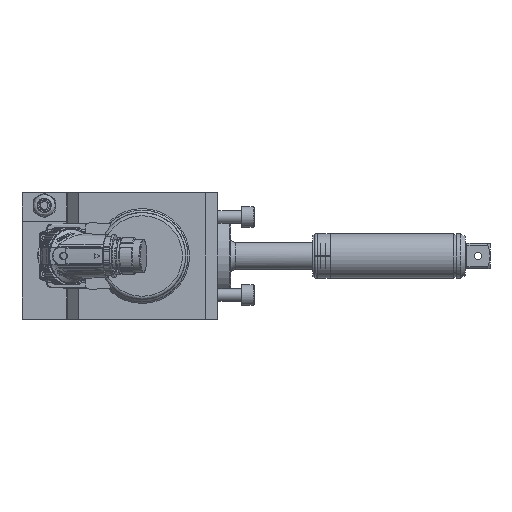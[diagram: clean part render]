
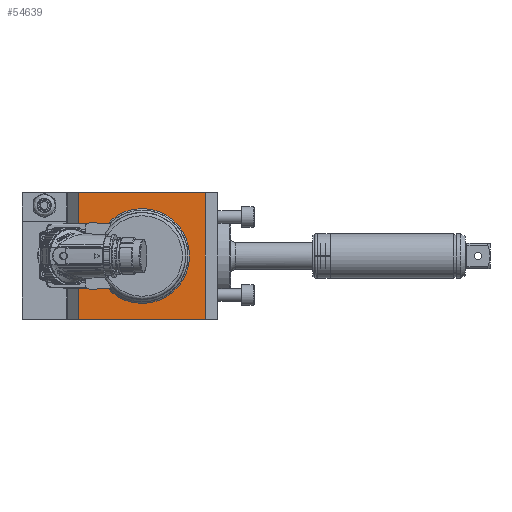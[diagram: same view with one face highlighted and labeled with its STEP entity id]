
A CAD part, left-side view. The second image highlights one B-rep face of the part: STEP entity #54639.
In plain terms, the highlighted planar face has unit normal (-1, 0, 0).
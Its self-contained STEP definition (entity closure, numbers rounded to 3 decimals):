
#2169 = CARTESIAN_POINT ( 'NONE',  ( -73.5, 48., 0. ) ) ;
#3579 = ORIENTED_EDGE ( 'NONE', *, *, #55813, .F. ) ;
#5270 = EDGE_CURVE ( 'NONE', #36378, #87141, #79385, .T. ) ;
#5452 = DIRECTION ( 'NONE',  ( -1., 0., 0. ) ) ;
#6909 = CIRCLE ( 'NONE', #69113, 30. ) ;
#10372 = VECTOR ( 'NONE', #38182, 1000. ) ;
#10771 = ORIENTED_EDGE ( 'NONE', *, *, #57088, .F. ) ;
#13088 = CARTESIAN_POINT ( 'NONE',  ( -73.5, 88., -40. ) ) ;
#14657 = EDGE_LOOP ( 'NONE', ( #3579, #10771, #24740, #31239 ) ) ;
#14849 = VERTEX_POINT ( 'NONE', #45366 ) ;
#18997 = VERTEX_POINT ( 'NONE', #40829 ) ;
#20618 = EDGE_LOOP ( 'NONE', ( #53336 ) ) ;
#22346 = VECTOR ( 'NONE', #71188, 1000. ) ;
#24740 = ORIENTED_EDGE ( 'NONE', *, *, #5270, .F. ) ;
#27535 = DIRECTION ( 'NONE',  ( 0., 1., 0. ) ) ;
#31239 = ORIENTED_EDGE ( 'NONE', *, *, #72618, .F. ) ;
#35815 = FACE_OUTER_BOUND ( 'NONE', #14657, .T. ) ;
#36378 = VERTEX_POINT ( 'NONE', #13088 ) ;
#37515 = EDGE_CURVE ( 'NONE', #18997, #18997, #6909, .T. ) ;
#38182 = DIRECTION ( 'NONE',  ( 0., 0., -1. ) ) ;
#40617 = VECTOR ( 'NONE', #67326, 1000. ) ;
#40829 = CARTESIAN_POINT ( 'NONE',  ( -73.5, 48., 30. ) ) ;
#45323 = CARTESIAN_POINT ( 'NONE',  ( -73.5, 8., 40. ) ) ;
#45366 = CARTESIAN_POINT ( 'NONE',  ( -73.5, 8., 40. ) ) ;
#49800 = CARTESIAN_POINT ( 'NONE',  ( -73.5, 8., 40. ) ) ;
#52065 = DIRECTION ( 'NONE',  ( 1., 0., 0. ) ) ;
#53336 = ORIENTED_EDGE ( 'NONE', *, *, #37515, .T. ) ;
#54197 = AXIS2_PLACEMENT_3D ( 'NONE', #85297, #5452, #92920 ) ;
#54639 = ADVANCED_FACE ( 'NONE', ( #35815, #63850 ), #56300, .T. ) ;
#55813 = EDGE_CURVE ( 'NONE', #14849, #59003, #89549, .T. ) ;
#56300 = PLANE ( 'NONE',  #54197 ) ;
#56627 = CARTESIAN_POINT ( 'NONE',  ( -73.5, 88., 40. ) ) ;
#57088 = EDGE_CURVE ( 'NONE', #87141, #14849, #85470, .T. ) ;
#59003 = VERTEX_POINT ( 'NONE', #73259 ) ;
#63639 = CARTESIAN_POINT ( 'NONE',  ( -73.5, 8., -40. ) ) ;
#63850 = FACE_BOUND ( 'NONE', #20618, .T. ) ;
#65460 = VECTOR ( 'NONE', #27535, 1000. ) ;
#66861 = CARTESIAN_POINT ( 'NONE',  ( -73.5, 88., 40. ) ) ;
#67326 = DIRECTION ( 'NONE',  ( 0., 0., 1. ) ) ;
#69113 = AXIS2_PLACEMENT_3D ( 'NONE', #2169, #52065, #81070 ) ;
#71188 = DIRECTION ( 'NONE',  ( 0., -1., 0. ) ) ;
#72618 = EDGE_CURVE ( 'NONE', #59003, #36378, #94092, .T. ) ;
#73259 = CARTESIAN_POINT ( 'NONE',  ( -73.5, 8., -40. ) ) ;
#79385 = LINE ( 'NONE', #66861, #40617 ) ;
#81070 = DIRECTION ( 'NONE',  ( 0., 0., 1. ) ) ;
#85297 = CARTESIAN_POINT ( 'NONE',  ( -73.5, 48., 0. ) ) ;
#85470 = LINE ( 'NONE', #49800, #22346 ) ;
#87141 = VERTEX_POINT ( 'NONE', #56627 ) ;
#89549 = LINE ( 'NONE', #45323, #10372 ) ;
#92920 = DIRECTION ( 'NONE',  ( 0., 0., 1. ) ) ;
#94092 = LINE ( 'NONE', #63639, #65460 ) ;
